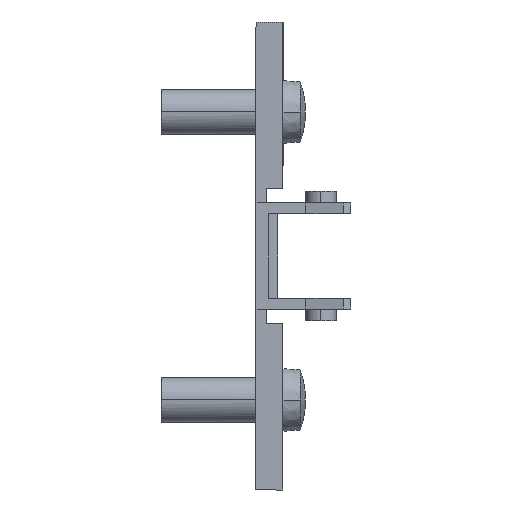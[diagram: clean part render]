
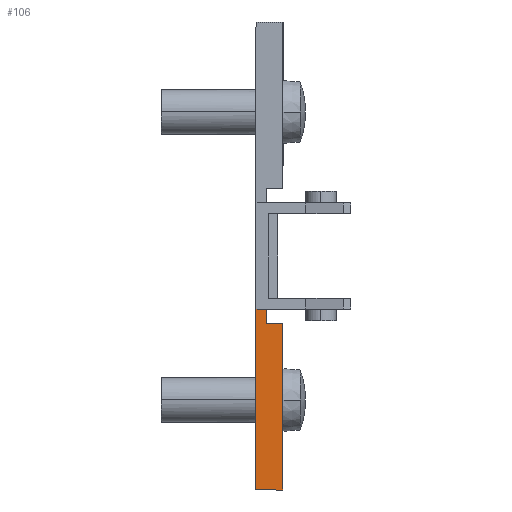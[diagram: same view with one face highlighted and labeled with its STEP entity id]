
A CAD part, front view. The second image highlights one B-rep face of the part: STEP entity #106.
In plain terms, the highlighted planar face has unit normal (0, -1, 0).
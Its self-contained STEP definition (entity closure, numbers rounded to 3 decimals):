
#21 = VECTOR ( 'NONE', #1329, 1000. ) ;
#22 = LINE ( 'NONE', #1322, #21 ) ;
#106 = ADVANCED_FACE ( 'NONE', ( #280 ), #3091, .F. ) ;
#280 = FACE_OUTER_BOUND ( 'NONE', #2001, .T. ) ;
#328 = EDGE_CURVE ( 'NONE', #2901, #2820, #1726, .T. ) ;
#360 = EDGE_CURVE ( 'NONE', #2926, #3003, #22, .T. ) ;
#404 = EDGE_CURVE ( 'NONE', #2901, #3005, #3424, .T. ) ;
#485 = EDGE_CURVE ( 'NONE', #2820, #2896, #3509, .T. ) ;
#578 = DIRECTION ( 'NONE',  ( 1., 0., 0. ) ) ;
#582 = CARTESIAN_POINT ( 'NONE',  ( 3., -9., -26. ) ) ;
#597 = DIRECTION ( 'NONE',  ( 0., 0., 1. ) ) ;
#605 = CARTESIAN_POINT ( 'NONE',  ( 1.2, -9., -5. ) ) ;
#673 = CARTESIAN_POINT ( 'NONE',  ( 3., -9., -26. ) ) ;
#719 = CARTESIAN_POINT ( 'NONE',  ( 0., -9., -5.9 ) ) ;
#730 = CARTESIAN_POINT ( 'NONE',  ( 3., -9., -7.5 ) ) ;
#742 = CARTESIAN_POINT ( 'NONE',  ( 1.2, -9., -7.5 ) ) ;
#943 = DIRECTION ( 'NONE',  ( 0., 0., 1. ) ) ;
#945 = CARTESIAN_POINT ( 'NONE',  ( 3., -9., -7.5 ) ) ;
#1034 = CARTESIAN_POINT ( 'NONE',  ( 1.2, -9., -5.9 ) ) ;
#1141 = CARTESIAN_POINT ( 'NONE',  ( 0., -9., -26. ) ) ;
#1322 = CARTESIAN_POINT ( 'NONE',  ( 1.2, -9., -7.5 ) ) ;
#1329 = DIRECTION ( 'NONE',  ( -1., 0., 0. ) ) ;
#1356 = CARTESIAN_POINT ( 'NONE',  ( 1.2, -9., -5.9 ) ) ;
#1357 = DIRECTION ( 'NONE',  ( 1., 0., 0. ) ) ;
#1585 = EDGE_CURVE ( 'NONE', #2896, #2926, #3283, .T. ) ;
#1701 = EDGE_CURVE ( 'NONE', #3003, #3005, #3228, .T. ) ;
#1711 = AXIS2_PLACEMENT_3D ( 'NONE', #3094, #3101, #3099 ) ;
#1726 = LINE ( 'NONE', #2451, #1729 ) ;
#1729 = VECTOR ( 'NONE', #2177, 1000. ) ;
#2001 = EDGE_LOOP ( 'NONE', ( #2697, #2700, #2699, #2698, #2288, #2557 ) ) ;
#2177 = DIRECTION ( 'NONE',  ( 0., 0., -1. ) ) ;
#2288 = ORIENTED_EDGE ( 'NONE', *, *, #360, .T. ) ;
#2451 = CARTESIAN_POINT ( 'NONE',  ( 0., -9., -26. ) ) ;
#2557 = ORIENTED_EDGE ( 'NONE', *, *, #1701, .T. ) ;
#2697 = ORIENTED_EDGE ( 'NONE', *, *, #404, .F. ) ;
#2698 = ORIENTED_EDGE ( 'NONE', *, *, #1585, .T. ) ;
#2699 = ORIENTED_EDGE ( 'NONE', *, *, #485, .T. ) ;
#2700 = ORIENTED_EDGE ( 'NONE', *, *, #328, .T. ) ;
#2820 = VERTEX_POINT ( 'NONE', #1141 ) ;
#2896 = VERTEX_POINT ( 'NONE', #673 ) ;
#2901 = VERTEX_POINT ( 'NONE', #719 ) ;
#2926 = VERTEX_POINT ( 'NONE', #730 ) ;
#3003 = VERTEX_POINT ( 'NONE', #742 ) ;
#3005 = VERTEX_POINT ( 'NONE', #1034 ) ;
#3091 = PLANE ( 'NONE',  #1711 ) ;
#3094 = CARTESIAN_POINT ( 'NONE',  ( 1.2, -9., -5. ) ) ;
#3099 = DIRECTION ( 'NONE',  ( 0., 0., 1. ) ) ;
#3101 = DIRECTION ( 'NONE',  ( 0., 1., 0. ) ) ;
#3227 = VECTOR ( 'NONE', #597, 1000. ) ;
#3228 = LINE ( 'NONE', #605, #3227 ) ;
#3282 = VECTOR ( 'NONE', #943, 1000. ) ;
#3283 = LINE ( 'NONE', #945, #3282 ) ;
#3424 = LINE ( 'NONE', #1356, #3430 ) ;
#3430 = VECTOR ( 'NONE', #1357, 1000. ) ;
#3508 = VECTOR ( 'NONE', #578, 1000. ) ;
#3509 = LINE ( 'NONE', #582, #3508 ) ;
